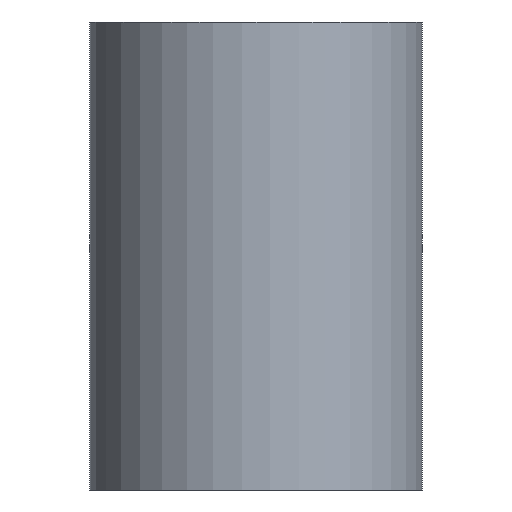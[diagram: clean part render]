
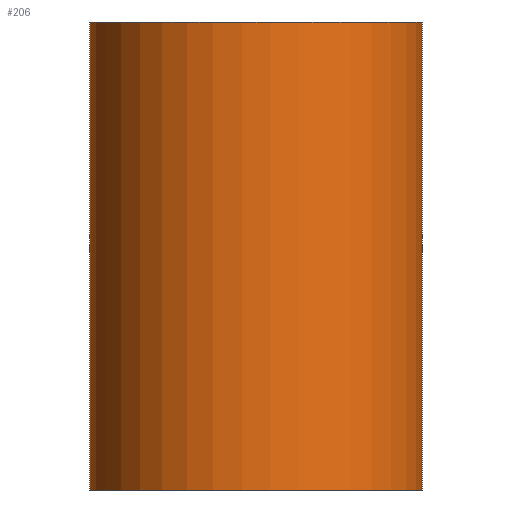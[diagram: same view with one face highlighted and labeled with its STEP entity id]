
A CAD part, left-side view. The second image highlights one B-rep face of the part: STEP entity #206.
In plain terms, the highlighted cylindrical face has radius 16 mm (diameter 32 mm), a partial arc.
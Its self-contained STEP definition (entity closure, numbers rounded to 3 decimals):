
#30=CIRCLE('',#294,16.);
#32=CIRCLE('',#298,16.);
#36=CYLINDRICAL_SURFACE('',#299,16.);
#54=FACE_OUTER_BOUND('',#66,.T.);
#66=EDGE_LOOP('',(#183,#184,#185,#186));
#78=LINE('',#405,#94);
#80=LINE('',#411,#96);
#94=VECTOR('',#341,10.);
#96=VECTOR('',#345,10.);
#108=VERTEX_POINT('',#399);
#110=VERTEX_POINT('',#403);
#111=VERTEX_POINT('',#407);
#113=VERTEX_POINT('',#410);
#130=EDGE_CURVE('',#108,#110,#78,.T.);
#132=EDGE_CURVE('',#113,#111,#80,.T.);
#136=EDGE_CURVE('',#113,#110,#30,.T.);
#138=EDGE_CURVE('',#108,#111,#32,.T.);
#183=ORIENTED_EDGE('',*,*,#130,.T.);
#184=ORIENTED_EDGE('',*,*,#136,.F.);
#185=ORIENTED_EDGE('',*,*,#132,.T.);
#186=ORIENTED_EDGE('',*,*,#138,.F.);
#206=ADVANCED_FACE('',(#54),#36,.T.);
#294=AXIS2_PLACEMENT_3D('',#417,#352,#353);
#298=AXIS2_PLACEMENT_3D('',#421,#360,#361);
#299=AXIS2_PLACEMENT_3D('',#422,#362,#363);
#341=DIRECTION('',(0.,0.,1.));
#345=DIRECTION('',(0.,0.,-1.));
#352=DIRECTION('center_axis',(0.,0.,1.));
#353=DIRECTION('ref_axis',(1.,0.,0.));
#360=DIRECTION('center_axis',(0.,0.,-1.));
#361=DIRECTION('ref_axis',(1.,0.,0.));
#362=DIRECTION('center_axis',(0.,0.,1.));
#363=DIRECTION('ref_axis',(-1.,0.,0.));
#399=CARTESIAN_POINT('',(14.253,-7.271,-22.5));
#403=CARTESIAN_POINT('',(14.253,-7.271,22.5));
#405=CARTESIAN_POINT('',(14.253,-7.271,0.));
#407=CARTESIAN_POINT('',(14.253,7.271,-22.5));
#410=CARTESIAN_POINT('',(14.253,7.271,22.5));
#411=CARTESIAN_POINT('',(14.253,7.271,0.));
#417=CARTESIAN_POINT('Origin',(0.,0.,22.5));
#421=CARTESIAN_POINT('Origin',(0.,0.,-22.5));
#422=CARTESIAN_POINT('Origin',(0.,0.,0.));
